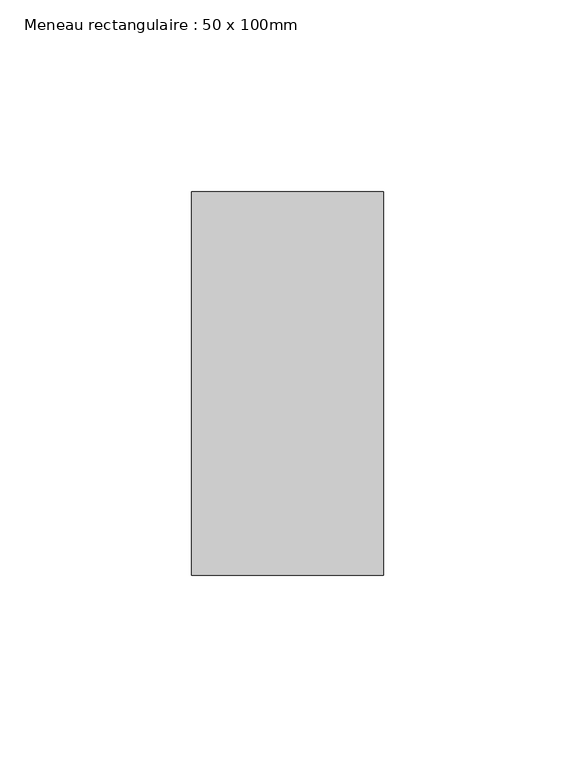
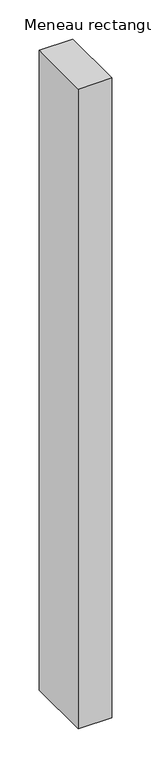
"""IFC4 building model written with IfcOpenShell, lengths in millimetres: member geometry, Meneau rectangulaire : 50 x 100mm."""

from ifc_helpers import new_model, si_unit, frame, origin, place, context, project, spatial, polyline, outline, extrude, source, transform, mapped, element, save


def meneau_rectangulaire_50_x_100mm_b4c3f8e3(model_context):
    return source(origin(), model_context, "Body", "SweptSolid", [
        extrude(outline(polyline([(0.0, 50.0), (0.0, -50.0), (-50.0, -50.0), (-50.0, 50.0), (0.0, 50.0)])), frame((0.0, 0.0, -1000.5020405), z_axis=(0.0, 0.0, 1.0), x_axis=(1.0, 0.0, 0.0)), (0.0, 0.0, 1.0), 1000.5020405),
    ])


if __name__ == "__main__":
    model = new_model("IFC4")
    model_context = context("Model", 3, world=origin())
    ifc_project = project(units=[si_unit("LENGTHUNIT", "METRE", prefix="MILLI")], contexts=[model_context])
    site = spatial("IfcSite", under=ifc_project)
    building = spatial("IfcBuilding", under=site)
    placement = place(None, origin())
    meneau_rectangulaire_50_x_100mm_shape = meneau_rectangulaire_50_x_100mm_b4c3f8e3(model_context)
    element("IfcMember", 1, ObjectType="Meneau rectangulaire : 50 x 100mm", at=placement, inside=building, context=model_context, shape_type="MappedRepresentation", body=[
        mapped(meneau_rectangulaire_50_x_100mm_shape, transform((0.0, 0.0, 0.0), x_axis=(1.0, 0.0, 0.0), y_axis=(0.0, 1.0, 0.0), z_axis=(0.0, 0.0, 1.0))),
    ])
    save(model, "model.ifc")
